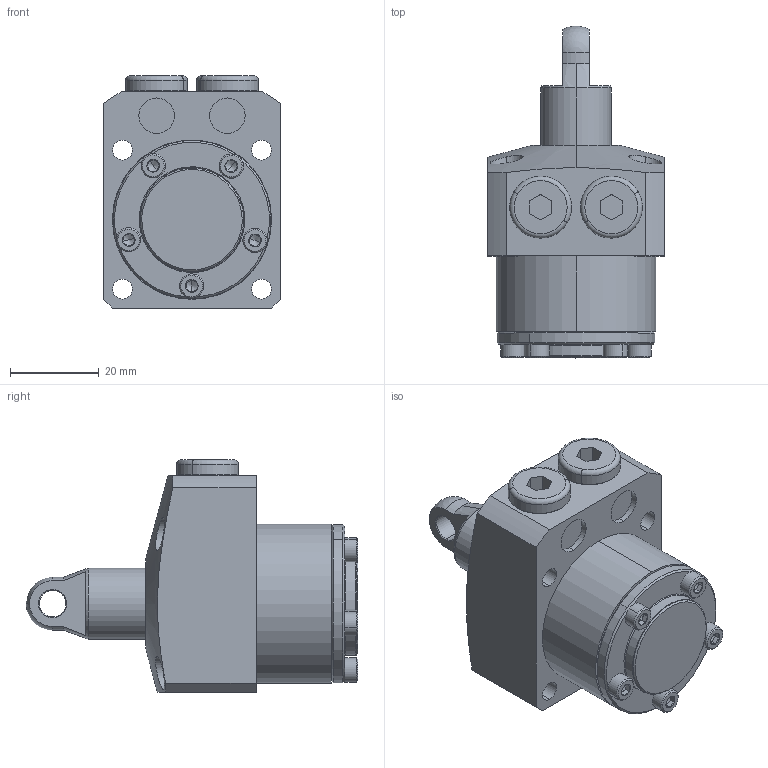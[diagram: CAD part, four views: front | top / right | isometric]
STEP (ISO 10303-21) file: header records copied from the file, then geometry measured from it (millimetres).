
FILE_DESCRIPTION (( 'STEP AP203' ), '1' );
FILE_NAME ('680360-CP-015.step', '2016-11-02T03:16:47', ( 'wxp' ), ( '' ), 'SwSTEP 2.0', 'SolidWorks 2011', '' );
FILE_SCHEMA (( 'CONFIG_CONTROL_DESIGN' ));
Length unit declared in the file: millimetre
Products named in the file (6): 680360-CP-015; 葩璃 68036-51-14^680360-CP-015; 葩璃 68036-15-5^680360-CP-015; 葩璃 68036-15-4^680360-CP-015; 葩璃 68036-15-3^680360-CP-015; 葩璃 68036-15-1^680360-CP-015
Assembly tree (10 placements, depth 2):
  680360-CP-015
    葩璃 68036-15-4^680360-CP-015  x5
    葩璃 68036-51-14^680360-CP-015
    葩璃 68036-15-3^680360-CP-015
    葩璃 68036-15-1^680360-CP-015
    葩璃 68036-15-5^680360-CP-015  x2
Bounding box: 40 x 75 x 52.5 mm (x, y, z)
Volume: 65939.8 mm3; surface area: 18929.9 mm2
Topology: 10 solids, 10 shells, 309 faces, 615 edges, 340 vertices
Faces by surface type: plane 122, cylinder 85, cone 84, torus 16, sphere 2
Entity records: 5455 total; most frequent: CARTESIAN_POINT 1093, DIRECTION 837, ORIENTED_EDGE 680, AXIS2_PLACEMENT_3D 351, EDGE_CURVE 340, VERTEX_POINT 207, EDGE_LOOP 195, CIRCLE 179
